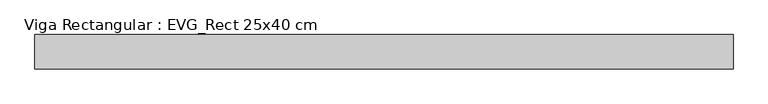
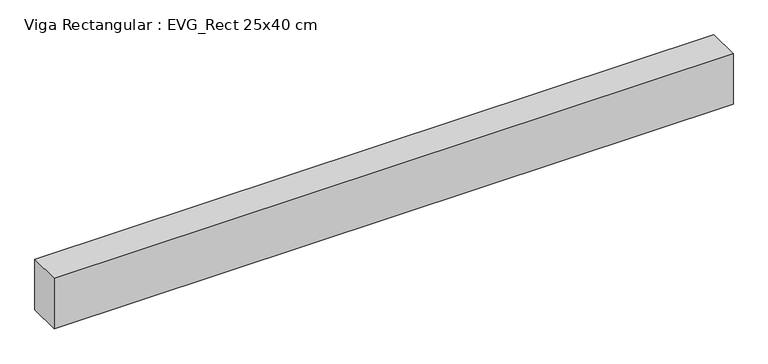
"""IFC4 building model written with IfcOpenShell, lengths in millimetres: beam geometry, Viga Rectangular : EVG_Rect 25x40 cm."""

from ifc_helpers import new_model, si_unit, frame, origin, place, context, project, spatial, polyline, outline, extrude, source, transform, mapped, element, save


def viga_rectangular_evg_rect_25x40_cm_85cacfee(model_context):
    return source(origin(), model_context, "Body", "SweptSolid", [
        extrude(outline(polyline([(2550.0, 125.0), (2550.0, -125.0), (-2550.0, -125.0), (-2550.0, 125.0), (2550.0, 125.0)])), frame((0.0, 0.0, -400.0), z_axis=(0.0, 0.0, 1.0), x_axis=(1.0, 0.0, 0.0)), (0.0, 0.0, 1.0), 400.0),
    ])


if __name__ == "__main__":
    model = new_model("IFC4")
    model_context = context("Model", 3, world=origin())
    ifc_project = project(units=[si_unit("LENGTHUNIT", "METRE", prefix="MILLI")], contexts=[model_context])
    site = spatial("IfcSite", under=ifc_project)
    building = spatial("IfcBuilding", under=site)
    placement = place(None, origin())
    viga_rectangular_evg_rect_25x40_cm_shape = viga_rectangular_evg_rect_25x40_cm_85cacfee(model_context)
    element("IfcBeam", 1, ObjectType="Viga Rectangular : EVG_Rect 25x40 cm", at=placement, inside=building, context=model_context, shape_type="MappedRepresentation", body=[
        mapped(viga_rectangular_evg_rect_25x40_cm_shape, transform((0.0, 0.0, 0.0), x_axis=(1.0, 0.0, 0.0), y_axis=(0.0, 1.0, 0.0), z_axis=(0.0, 0.0, 1.0))),
    ])
    save(model, "model.ifc")
